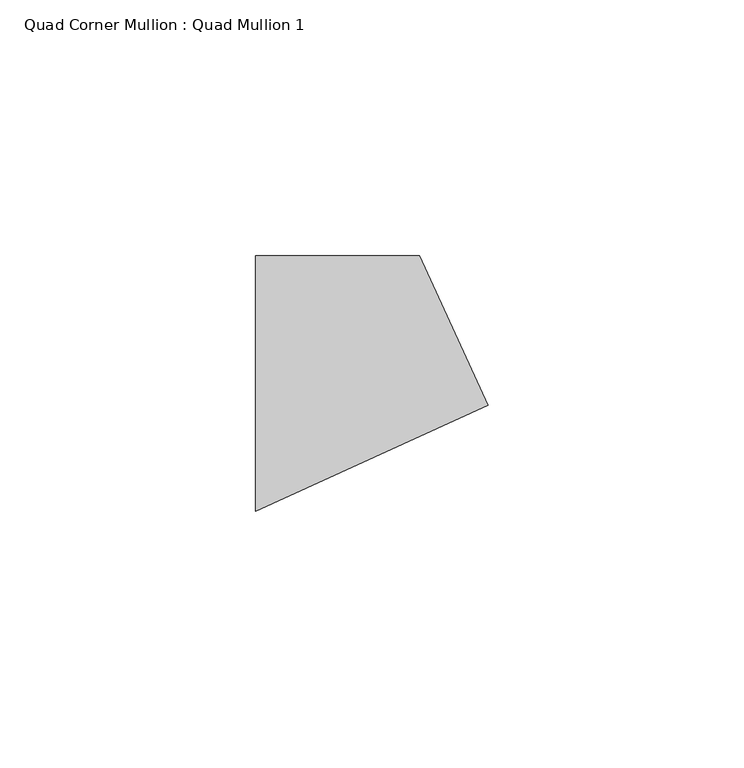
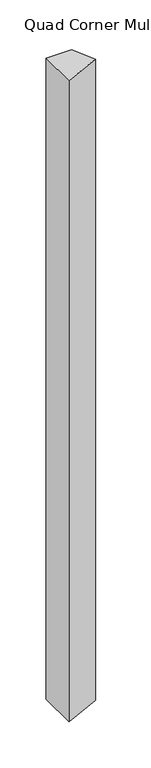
"""IFC4 building model written with IfcOpenShell, lengths in millimetres: member geometry, Quad Corner Mullion : Quad Mullion 1."""

from ifc_helpers import new_model, si_unit, frame, origin, place, context, project, spatial, polyline, outline, extrude, source, transform, mapped, element, save


def quad_corner_mullion_quad_mullion_1_9c904191(model_context):
    return source(origin(), model_context, "Body", "SweptSolid", [
        extrude(outline(polyline([(29.4125559, -4.1926582), (-16.0523154, -25.0), (-16.0523154, 25.0), (16.0523154, 25.0), (29.4125559, -4.1926582)])), frame((0.0, 0.0, -850.0), z_axis=(0.0, 0.0, 1.0), x_axis=(1.0, 0.0, 0.0)), (0.0, 0.0, 1.0), 850.0),
    ])


if __name__ == "__main__":
    model = new_model("IFC4")
    model_context = context("Model", 3, world=origin())
    ifc_project = project(units=[si_unit("LENGTHUNIT", "METRE", prefix="MILLI")], contexts=[model_context])
    site = spatial("IfcSite", under=ifc_project)
    building = spatial("IfcBuilding", under=site)
    placement = place(None, origin())
    quad_corner_mullion_quad_mullion_1_shape = quad_corner_mullion_quad_mullion_1_9c904191(model_context)
    element("IfcMember", 1, ObjectType="Quad Corner Mullion : Quad Mullion 1", at=placement, inside=building, context=model_context, shape_type="MappedRepresentation", body=[
        mapped(quad_corner_mullion_quad_mullion_1_shape, transform((0.0, 0.0, 0.0), x_axis=(1.0, 0.0, 0.0), y_axis=(0.0, 1.0, 0.0), z_axis=(0.0, 0.0, 1.0))),
    ])
    save(model, "model.ifc")
